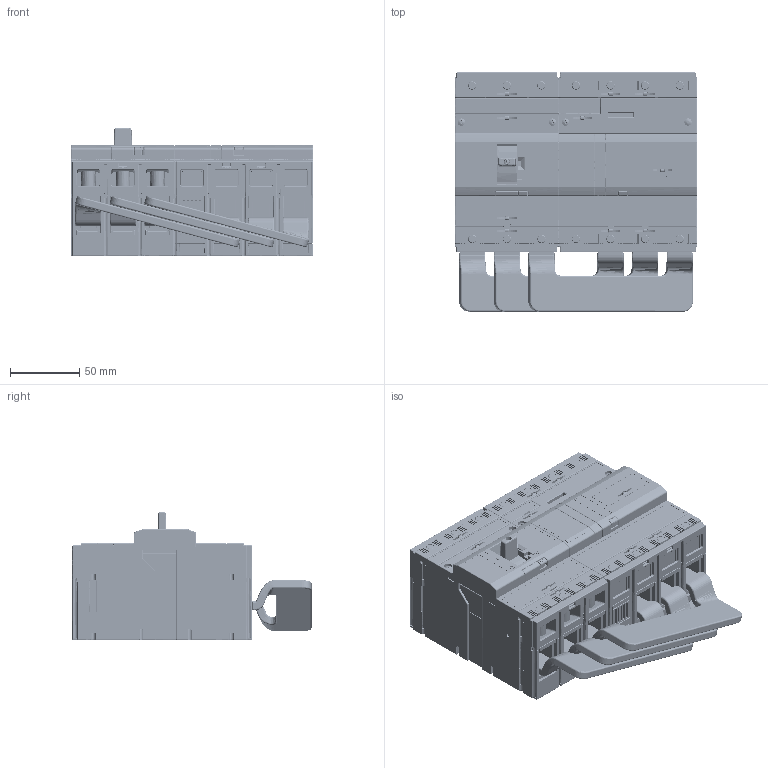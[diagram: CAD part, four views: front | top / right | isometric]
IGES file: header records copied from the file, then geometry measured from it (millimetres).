
Start section: SolidWorks IGES file using analytic representation for surfaces
Global section: file name: U:\14_RD\05_Technical_office\04_Office\Hrdinova\3D modely - IGES\Modeion\BC160NT305__RCD-BC0_P.IGS; native system: SolidWorks 2011; preprocessor: SolidWorks 2011; author: adhrja3; date: 170615.122905; units: millimetre
Bounding box: 175 x 173 x 92.5 mm (x, y, z)
Surface area: 308198.5 mm2 (no closed solid volume)
Topology: 0 solids, 0 shells, 9956 faces, 79787 edges, 79686 vertices
Faces by surface type: bspline 6381, revolution 3575
